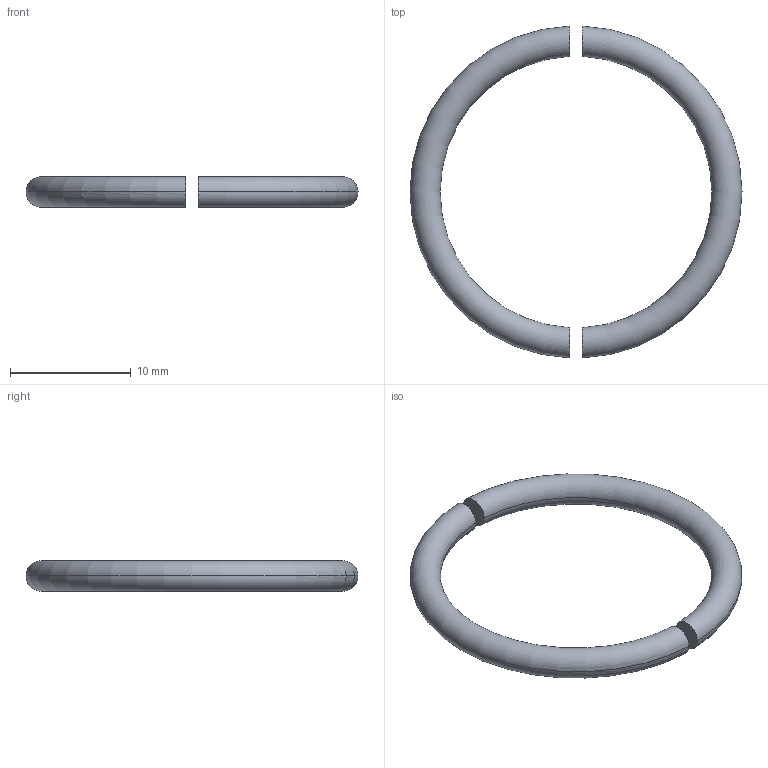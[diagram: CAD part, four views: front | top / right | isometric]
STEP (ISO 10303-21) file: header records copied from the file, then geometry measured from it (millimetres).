
FILE_DESCRIPTION(('CATIA V5 STEP Exchange','CAx-IF Rec.Pracs.--- Model Styling and Organization---1.4--- 2014-01-23','CAx-IF Rec.Pracs.---3D Tessellated Data Validation Properties---0.5---2014-09-14'),'2;1');
FILE_NAME('\\GSBFILE\data\URETIM\3D DATALAR\2016\KALIP ELEMANLARI\A KODLARI\A102-01\A102-01-025\A102-01-025.stp','2019-08-28T11:06:14+00:00',('none'),('none'),'CATIA Version 5-6 Release 2016 SP6 HF8','CATIA V5 STEP AP242','none');
FILE_SCHEMA(('AP242_MANAGED_MODEL_BASED_3D_ENGINEERING_MIM_LF {1 0 10303 442 1 1 4}'));
Length unit declared in the file: millimetre
Products named in the file (1): A102-01-025
Bounding box: 27.5 x 27.48 x 2.49 mm (x, y, z)
Volume: 375.7 mm3; surface area: 620.8 mm2
Topology: 2 solids, 2 shells, 8 faces, 12 edges, 8 vertices
Faces by surface type: torus 4, plane 4
Entity records: 243 total; most frequent: CARTESIAN_POINT 112, ORIENTED_EDGE 24, EDGE_CURVE 12, DIRECTION 10, AXIS2_PLACEMENT_3D 8, EDGE_LOOP 8, VERTEX_POINT 8, ADVANCED_FACE 8
